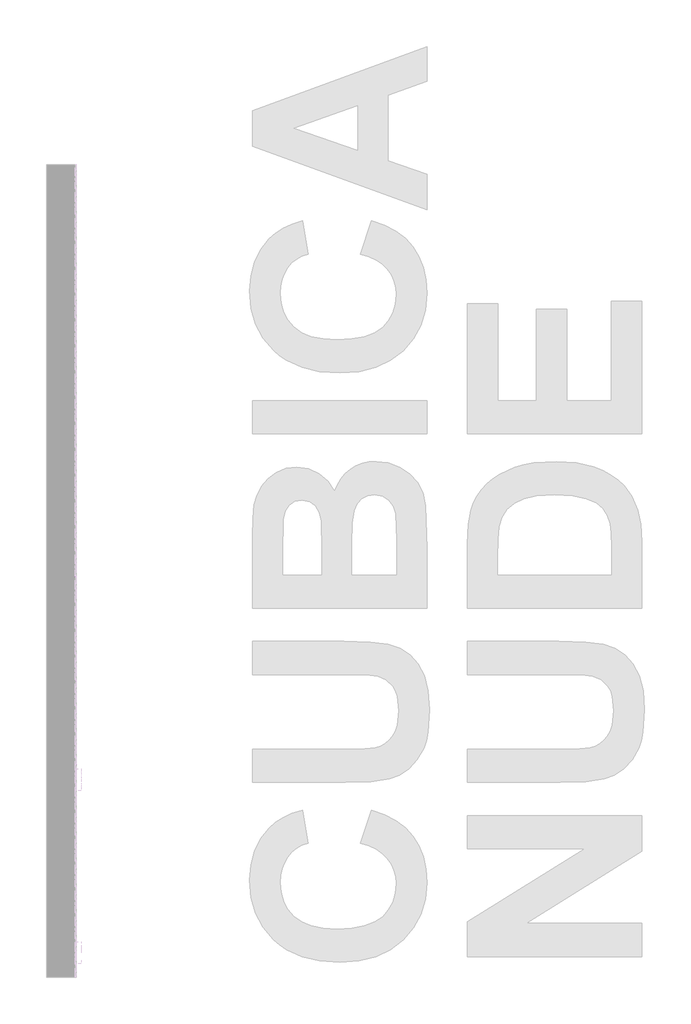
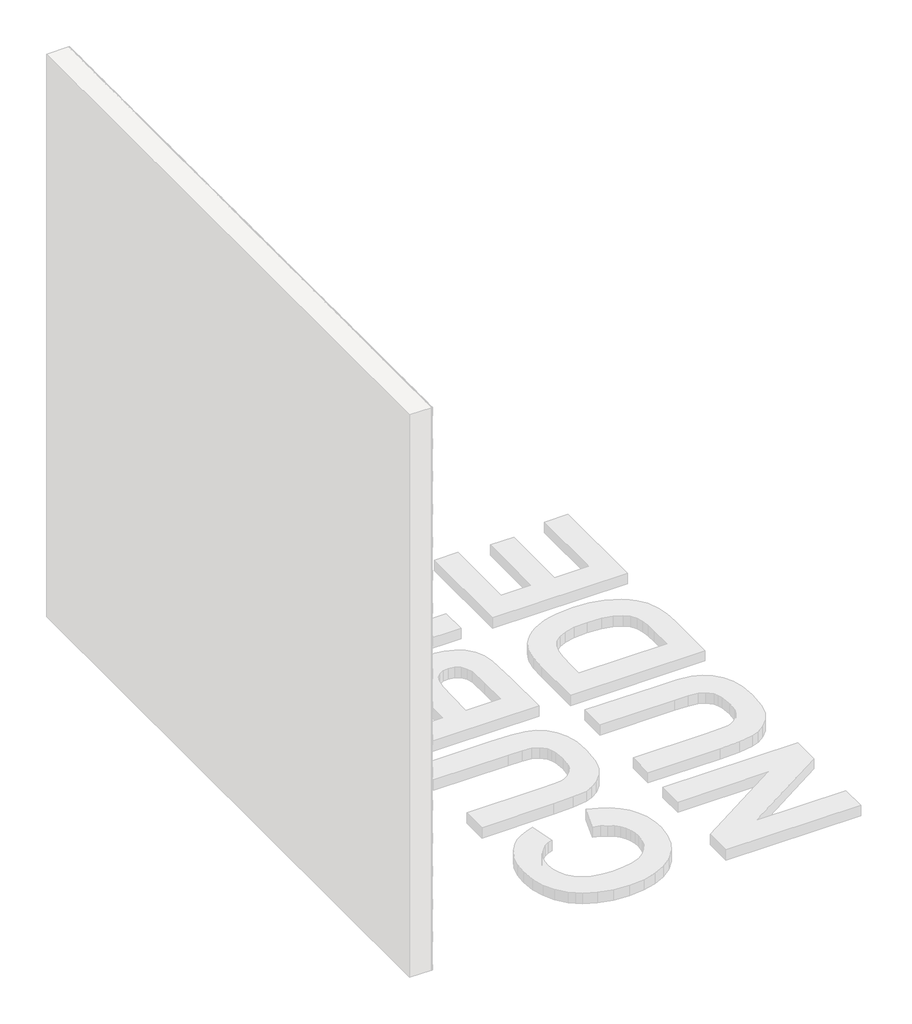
# One storey, part 59 of 121: 145 proxies.
"""IFC4 building model written with IfcOpenShell, lengths in millimetres."""

from ifc_helpers import new_model, si_unit, origin, place, context, project, spatial, transform, mapped, element, save
from components import generic_models_b2b2c5c1, generic_models_9bf73f6f, generic_models_5d175859

model = new_model("IFC4")

# Units and contexts
model_context = context("Model", 3, world=origin())
ifc_project = project(units=[si_unit("LENGTHUNIT", "METRE", prefix="MILLI")], contexts=[model_context])

# Site, building, storey
site = spatial("IfcSite", under=ifc_project)
building = spatial("IfcBuilding", under=site)
storey = spatial("IfcBuildingStorey", under=building, Name="PORTOBELLO - SHOWROOM", Elevation=0.0)

# Proxies
placement = place(None, origin())
generic_models_shape = generic_models_b2b2c5c1(model_context)
element("IfcBuildingElementProxy", 1, Name="PBSHOP - CUBICA NUDE 4,8X8,3 : CUBICA NUDE - POSIÇÃO 01", ObjectType="PBSHOP - CUBICA NUDE 4,8X8,3 : CUBICA NUDE - POSIÇÃO 01", at=placement, inside=storey, context=model_context, shape_type="MappedRepresentation", body=[
    mapped(generic_models_shape, transform((150369.5341846, 7895.3956881, 1697.0495727), x_axis=(0.0, 1.0, 0.0), y_axis=(0.0, 0.0, 1.0), z_axis=(1.0, 0.0, 0.0))),
])
element("IfcBuildingElementProxy", 2, Name="PBSHOP - CUBICA NUDE 4,8X8,3 : CUBICA NUDE - POSIÇÃO 01", ObjectType="PBSHOP - CUBICA NUDE 4,8X8,3 : CUBICA NUDE - POSIÇÃO 01", at=placement, inside=storey, context=model_context, shape_type="MappedRepresentation", body=[
    mapped(generic_models_shape, transform((150369.5341846, 7986.2349573, 1697.0495727), x_axis=(0.0, 1.0, 0.0), y_axis=(0.0, 0.0, 1.0), z_axis=(1.0, 0.0, 0.0))),
])
element("IfcBuildingElementProxy", 3, Name="PBSHOP - CUBICA NUDE 4,8X8,3 : CUBICA NUDE - POSIÇÃO 01", ObjectType="PBSHOP - CUBICA NUDE 4,8X8,3 : CUBICA NUDE - POSIÇÃO 01", at=placement, inside=storey, context=model_context, shape_type="MappedRepresentation", body=[
    mapped(generic_models_shape, transform((150369.5341846, 7032.4226303, 1775.984211), x_axis=(0.0, 1.0, 0.0), y_axis=(0.0, 0.0, 1.0), z_axis=(1.0, 0.0, 0.0))),
])
element("IfcBuildingElementProxy", 4, Name="PBSHOP - CUBICA NUDE 4,8X8,3 : CUBICA NUDE - POSIÇÃO 01", ObjectType="PBSHOP - CUBICA NUDE 4,8X8,3 : CUBICA NUDE - POSIÇÃO 01", at=placement, inside=storey, context=model_context, shape_type="MappedRepresentation", body=[
    mapped(generic_models_shape, transform((150369.5341846, 7123.2618995, 1775.984211), x_axis=(0.0, 1.0, 0.0), y_axis=(0.0, 0.0, 1.0), z_axis=(1.0, 0.0, 0.0))),
])
element("IfcBuildingElementProxy", 5, Name="PBSHOP - CUBICA NUDE 4,8X8,3 : CUBICA NUDE - POSIÇÃO 01", ObjectType="PBSHOP - CUBICA NUDE 4,8X8,3 : CUBICA NUDE - POSIÇÃO 01", at=placement, inside=storey, context=model_context, shape_type="MappedRepresentation", body=[
    mapped(generic_models_shape, transform((150369.5341846, 7214.1011688, 1775.984211), x_axis=(0.0, 1.0, 0.0), y_axis=(0.0, 0.0, 1.0), z_axis=(1.0, 0.0, 0.0))),
])
element("IfcBuildingElementProxy", 6, Name="PBSHOP - CUBICA NUDE 4,8X8,3 : CUBICA NUDE - POSIÇÃO 01", ObjectType="PBSHOP - CUBICA NUDE 4,8X8,3 : CUBICA NUDE - POSIÇÃO 01", at=placement, inside=storey, context=model_context, shape_type="MappedRepresentation", body=[
    mapped(generic_models_shape, transform((150369.5341846, 7304.940438, 1775.984211), x_axis=(0.0, 1.0, 0.0), y_axis=(0.0, 0.0, 1.0), z_axis=(1.0, 0.0, 0.0))),
])
element("IfcBuildingElementProxy", 7, Name="PBSHOP - CUBICA NUDE 4,8X8,3 : CUBICA NUDE - POSIÇÃO 01", ObjectType="PBSHOP - CUBICA NUDE 4,8X8,3 : CUBICA NUDE - POSIÇÃO 01", at=placement, inside=storey, context=model_context, shape_type="MappedRepresentation", body=[
    mapped(generic_models_shape, transform((150369.5341846, 7395.7797073, 1775.984211), x_axis=(0.0, 1.0, 0.0), y_axis=(0.0, 0.0, 1.0), z_axis=(1.0, 0.0, 0.0))),
])
element("IfcBuildingElementProxy", 8, Name="PBSHOP - CUBICA NUDE 4,8X8,3 : CUBICA NUDE - POSIÇÃO 01", ObjectType="PBSHOP - CUBICA NUDE 4,8X8,3 : CUBICA NUDE - POSIÇÃO 01", at=placement, inside=storey, context=model_context, shape_type="MappedRepresentation", body=[
    mapped(generic_models_shape, transform((150369.5341846, 7486.6189765, 1775.984211), x_axis=(0.0, 1.0, 0.0), y_axis=(0.0, 0.0, 1.0), z_axis=(1.0, 0.0, 0.0))),
])
element("IfcBuildingElementProxy", 9, Name="PBSHOP - CUBICA NUDE 4,8X8,3 : CUBICA NUDE - POSIÇÃO 01", ObjectType="PBSHOP - CUBICA NUDE 4,8X8,3 : CUBICA NUDE - POSIÇÃO 01", at=placement, inside=storey, context=model_context, shape_type="MappedRepresentation", body=[
    mapped(generic_models_shape, transform((150369.5341846, 7577.4582457, 1775.984211), x_axis=(0.0, 1.0, 0.0), y_axis=(0.0, 0.0, 1.0), z_axis=(1.0, 0.0, 0.0))),
])
element("IfcBuildingElementProxy", 10, Name="PBSHOP - CUBICA NUDE 4,8X8,3 : CUBICA NUDE - POSIÇÃO 01", ObjectType="PBSHOP - CUBICA NUDE 4,8X8,3 : CUBICA NUDE - POSIÇÃO 01", at=placement, inside=storey, context=model_context, shape_type="MappedRepresentation", body=[
    mapped(generic_models_shape, transform((150369.5341846, 7668.297515, 1775.984211), x_axis=(0.0, 1.0, 0.0), y_axis=(0.0, 0.0, 1.0), z_axis=(1.0, 0.0, 0.0))),
])
element("IfcBuildingElementProxy", 11, Name="PBSHOP - CUBICA NUDE 4,8X8,3 : CUBICA NUDE - POSIÇÃO 01", ObjectType="PBSHOP - CUBICA NUDE 4,8X8,3 : CUBICA NUDE - POSIÇÃO 01", at=placement, inside=storey, context=model_context, shape_type="MappedRepresentation", body=[
    mapped(generic_models_shape, transform((150369.5341846, 7759.1367842, 1775.984211), x_axis=(0.0, 1.0, 0.0), y_axis=(0.0, 0.0, 1.0), z_axis=(1.0, 0.0, 0.0))),
])
element("IfcBuildingElementProxy", 12, Name="PBSHOP - CUBICA NUDE 4,8X8,3 : CUBICA NUDE - POSIÇÃO 01", ObjectType="PBSHOP - CUBICA NUDE 4,8X8,3 : CUBICA NUDE - POSIÇÃO 01", at=placement, inside=storey, context=model_context, shape_type="MappedRepresentation", body=[
    mapped(generic_models_shape, transform((150369.5341846, 7849.9760535, 1775.984211), x_axis=(0.0, 1.0, 0.0), y_axis=(0.0, 0.0, 1.0), z_axis=(1.0, 0.0, 0.0))),
])
element("IfcBuildingElementProxy", 13, Name="PBSHOP - CUBICA NUDE 4,8X8,3 : CUBICA NUDE - POSIÇÃO 01", ObjectType="PBSHOP - CUBICA NUDE 4,8X8,3 : CUBICA NUDE - POSIÇÃO 01", at=placement, inside=storey, context=model_context, shape_type="MappedRepresentation", body=[
    mapped(generic_models_shape, transform((150369.5341846, 7940.8153227, 1775.984211), x_axis=(0.0, 1.0, 0.0), y_axis=(0.0, 0.0, 1.0), z_axis=(1.0, 0.0, 0.0))),
])
element("IfcBuildingElementProxy", 14, Name="PBSHOP - CUBICA NUDE 4,8X8,3 : CUBICA NUDE - POSIÇÃO 01", ObjectType="PBSHOP - CUBICA NUDE 4,8X8,3 : CUBICA NUDE - POSIÇÃO 01", at=placement, inside=storey, context=model_context, shape_type="MappedRepresentation", body=[
    mapped(generic_models_shape, transform((150369.5341846, 7077.8422649, 1854.9188494), x_axis=(0.0, 1.0, 0.0), y_axis=(0.0, 0.0, 1.0), z_axis=(1.0, 0.0, 0.0))),
])
element("IfcBuildingElementProxy", 15, Name="PBSHOP - CUBICA NUDE 4,8X8,3 : CUBICA NUDE - POSIÇÃO 01", ObjectType="PBSHOP - CUBICA NUDE 4,8X8,3 : CUBICA NUDE - POSIÇÃO 01", at=placement, inside=storey, context=model_context, shape_type="MappedRepresentation", body=[
    mapped(generic_models_shape, transform((150369.5341846, 7168.6815341, 1854.9188494), x_axis=(0.0, 1.0, 0.0), y_axis=(0.0, 0.0, 1.0), z_axis=(1.0, 0.0, 0.0))),
])
element("IfcBuildingElementProxy", 16, Name="PBSHOP - CUBICA NUDE 4,8X8,3 : CUBICA NUDE - POSIÇÃO 01", ObjectType="PBSHOP - CUBICA NUDE 4,8X8,3 : CUBICA NUDE - POSIÇÃO 01", at=placement, inside=storey, context=model_context, shape_type="MappedRepresentation", body=[
    mapped(generic_models_shape, transform((150369.5341846, 7259.5208034, 1854.9188494), x_axis=(0.0, 1.0, 0.0), y_axis=(0.0, 0.0, 1.0), z_axis=(1.0, 0.0, 0.0))),
])
element("IfcBuildingElementProxy", 17, Name="PBSHOP - CUBICA NUDE 4,8X8,3 : CUBICA NUDE - POSIÇÃO 01", ObjectType="PBSHOP - CUBICA NUDE 4,8X8,3 : CUBICA NUDE - POSIÇÃO 01", at=placement, inside=storey, context=model_context, shape_type="MappedRepresentation", body=[
    mapped(generic_models_shape, transform((150369.5341846, 7350.3600726, 1854.9188494), x_axis=(0.0, 1.0, 0.0), y_axis=(0.0, 0.0, 1.0), z_axis=(1.0, 0.0, 0.0))),
])
element("IfcBuildingElementProxy", 18, Name="PBSHOP - CUBICA NUDE 4,8X8,3 : CUBICA NUDE - POSIÇÃO 01", ObjectType="PBSHOP - CUBICA NUDE 4,8X8,3 : CUBICA NUDE - POSIÇÃO 01", at=placement, inside=storey, context=model_context, shape_type="MappedRepresentation", body=[
    mapped(generic_models_shape, transform((150369.5341846, 7441.1993419, 1854.9188494), x_axis=(0.0, 1.0, 0.0), y_axis=(0.0, 0.0, 1.0), z_axis=(1.0, 0.0, 0.0))),
])
element("IfcBuildingElementProxy", 19, Name="PBSHOP - CUBICA NUDE 4,8X8,3 : CUBICA NUDE - POSIÇÃO 01", ObjectType="PBSHOP - CUBICA NUDE 4,8X8,3 : CUBICA NUDE - POSIÇÃO 01", at=placement, inside=storey, context=model_context, shape_type="MappedRepresentation", body=[
    mapped(generic_models_shape, transform((150369.5341846, 7532.0386111, 1854.9188494), x_axis=(0.0, 1.0, 0.0), y_axis=(0.0, 0.0, 1.0), z_axis=(1.0, 0.0, 0.0))),
])
element("IfcBuildingElementProxy", 20, Name="PBSHOP - CUBICA NUDE 4,8X8,3 : CUBICA NUDE - POSIÇÃO 01", ObjectType="PBSHOP - CUBICA NUDE 4,8X8,3 : CUBICA NUDE - POSIÇÃO 01", at=placement, inside=storey, context=model_context, shape_type="MappedRepresentation", body=[
    mapped(generic_models_shape, transform((150369.5341846, 7622.8778804, 1854.9188494), x_axis=(0.0, 1.0, 0.0), y_axis=(0.0, 0.0, 1.0), z_axis=(1.0, 0.0, 0.0))),
])
element("IfcBuildingElementProxy", 21, Name="PBSHOP - CUBICA NUDE 4,8X8,3 : CUBICA NUDE - POSIÇÃO 01", ObjectType="PBSHOP - CUBICA NUDE 4,8X8,3 : CUBICA NUDE - POSIÇÃO 01", at=placement, inside=storey, context=model_context, shape_type="MappedRepresentation", body=[
    mapped(generic_models_shape, transform((150369.5341846, 7713.7171496, 1854.9188494), x_axis=(0.0, 1.0, 0.0), y_axis=(0.0, 0.0, 1.0), z_axis=(1.0, 0.0, 0.0))),
])
element("IfcBuildingElementProxy", 22, Name="PBSHOP - CUBICA NUDE 4,8X8,3 : CUBICA NUDE - POSIÇÃO 01", ObjectType="PBSHOP - CUBICA NUDE 4,8X8,3 : CUBICA NUDE - POSIÇÃO 01", at=placement, inside=storey, context=model_context, shape_type="MappedRepresentation", body=[
    mapped(generic_models_shape, transform((150369.5341846, 7804.5564189, 1854.9188494), x_axis=(0.0, 1.0, 0.0), y_axis=(0.0, 0.0, 1.0), z_axis=(1.0, 0.0, 0.0))),
])
element("IfcBuildingElementProxy", 23, Name="PBSHOP - CUBICA NUDE 4,8X8,3 : CUBICA NUDE - POSIÇÃO 01", ObjectType="PBSHOP - CUBICA NUDE 4,8X8,3 : CUBICA NUDE - POSIÇÃO 01", at=placement, inside=storey, context=model_context, shape_type="MappedRepresentation", body=[
    mapped(generic_models_shape, transform((150369.5341846, 7895.3956881, 1854.9188494), x_axis=(0.0, 1.0, 0.0), y_axis=(0.0, 0.0, 1.0), z_axis=(1.0, 0.0, 0.0))),
])
element("IfcBuildingElementProxy", 24, Name="PBSHOP - CUBICA NUDE 4,8X8,3 : CUBICA NUDE - POSIÇÃO 01", ObjectType="PBSHOP - CUBICA NUDE 4,8X8,3 : CUBICA NUDE - POSIÇÃO 01", at=placement, inside=storey, context=model_context, shape_type="MappedRepresentation", body=[
    mapped(generic_models_shape, transform((150369.5341846, 7986.2349573, 1854.9188494), x_axis=(0.0, 1.0, 0.0), y_axis=(0.0, 0.0, 1.0), z_axis=(1.0, 0.0, 0.0))),
])
element("IfcBuildingElementProxy", 25, Name="PBSHOP - CUBICA NUDE 4,8X8,3 : CUBICA NUDE - POSIÇÃO 01", ObjectType="PBSHOP - CUBICA NUDE 4,8X8,3 : CUBICA NUDE - POSIÇÃO 01", at=placement, inside=storey, context=model_context, shape_type="MappedRepresentation", body=[
    mapped(generic_models_shape, transform((150369.5341846, 7032.4226303, 1933.8534878), x_axis=(0.0, 1.0, 0.0), y_axis=(0.0, 0.0, 1.0), z_axis=(1.0, 0.0, 0.0))),
])
element("IfcBuildingElementProxy", 26, Name="PBSHOP - CUBICA NUDE 4,8X8,3 : CUBICA NUDE - POSIÇÃO 01", ObjectType="PBSHOP - CUBICA NUDE 4,8X8,3 : CUBICA NUDE - POSIÇÃO 01", at=placement, inside=storey, context=model_context, shape_type="MappedRepresentation", body=[
    mapped(generic_models_shape, transform((150369.5341846, 7123.2618995, 1933.8534878), x_axis=(0.0, 1.0, 0.0), y_axis=(0.0, 0.0, 1.0), z_axis=(1.0, 0.0, 0.0))),
])
element("IfcBuildingElementProxy", 27, Name="PBSHOP - CUBICA NUDE 4,8X8,3 : CUBICA NUDE - POSIÇÃO 01", ObjectType="PBSHOP - CUBICA NUDE 4,8X8,3 : CUBICA NUDE - POSIÇÃO 01", at=placement, inside=storey, context=model_context, shape_type="MappedRepresentation", body=[
    mapped(generic_models_shape, transform((150369.5341846, 7214.1011688, 1933.8534878), x_axis=(0.0, 1.0, 0.0), y_axis=(0.0, 0.0, 1.0), z_axis=(1.0, 0.0, 0.0))),
])
element("IfcBuildingElementProxy", 28, Name="PBSHOP - CUBICA NUDE 4,8X8,3 : CUBICA NUDE - POSIÇÃO 01", ObjectType="PBSHOP - CUBICA NUDE 4,8X8,3 : CUBICA NUDE - POSIÇÃO 01", at=placement, inside=storey, context=model_context, shape_type="MappedRepresentation", body=[
    mapped(generic_models_shape, transform((150369.5341846, 7304.940438, 1933.8534878), x_axis=(0.0, 1.0, 0.0), y_axis=(0.0, 0.0, 1.0), z_axis=(1.0, 0.0, 0.0))),
])
element("IfcBuildingElementProxy", 29, Name="PBSHOP - CUBICA NUDE 4,8X8,3 : CUBICA NUDE - POSIÇÃO 01", ObjectType="PBSHOP - CUBICA NUDE 4,8X8,3 : CUBICA NUDE - POSIÇÃO 01", at=placement, inside=storey, context=model_context, shape_type="MappedRepresentation", body=[
    mapped(generic_models_shape, transform((150369.5341846, 7395.7797073, 1933.8534878), x_axis=(0.0, 1.0, 0.0), y_axis=(0.0, 0.0, 1.0), z_axis=(1.0, 0.0, 0.0))),
])
element("IfcBuildingElementProxy", 30, Name="PBSHOP - CUBICA NUDE 4,8X8,3 : CUBICA NUDE - POSIÇÃO 01", ObjectType="PBSHOP - CUBICA NUDE 4,8X8,3 : CUBICA NUDE - POSIÇÃO 01", at=placement, inside=storey, context=model_context, shape_type="MappedRepresentation", body=[
    mapped(generic_models_shape, transform((150369.5341846, 7486.6189765, 1933.8534878), x_axis=(0.0, 1.0, 0.0), y_axis=(0.0, 0.0, 1.0), z_axis=(1.0, 0.0, 0.0))),
])
element("IfcBuildingElementProxy", 31, Name="PBSHOP - CUBICA NUDE 4,8X8,3 : CUBICA NUDE - POSIÇÃO 01", ObjectType="PBSHOP - CUBICA NUDE 4,8X8,3 : CUBICA NUDE - POSIÇÃO 01", at=placement, inside=storey, context=model_context, shape_type="MappedRepresentation", body=[
    mapped(generic_models_shape, transform((150369.5341846, 7577.4582457, 1933.8534878), x_axis=(0.0, 1.0, 0.0), y_axis=(0.0, 0.0, 1.0), z_axis=(1.0, 0.0, 0.0))),
])
element("IfcBuildingElementProxy", 32, Name="PBSHOP - CUBICA NUDE 4,8X8,3 : CUBICA NUDE - POSIÇÃO 01", ObjectType="PBSHOP - CUBICA NUDE 4,8X8,3 : CUBICA NUDE - POSIÇÃO 01", at=placement, inside=storey, context=model_context, shape_type="MappedRepresentation", body=[
    mapped(generic_models_shape, transform((150369.5341846, 7668.297515, 1933.8534878), x_axis=(0.0, 1.0, 0.0), y_axis=(0.0, 0.0, 1.0), z_axis=(1.0, 0.0, 0.0))),
])
element("IfcBuildingElementProxy", 33, Name="PBSHOP - CUBICA NUDE 4,8X8,3 : CUBICA NUDE - POSIÇÃO 01", ObjectType="PBSHOP - CUBICA NUDE 4,8X8,3 : CUBICA NUDE - POSIÇÃO 01", at=placement, inside=storey, context=model_context, shape_type="MappedRepresentation", body=[
    mapped(generic_models_shape, transform((150369.5341846, 7759.1367842, 1933.8534878), x_axis=(0.0, 1.0, 0.0), y_axis=(0.0, 0.0, 1.0), z_axis=(1.0, 0.0, 0.0))),
])
element("IfcBuildingElementProxy", 34, Name="PBSHOP - CUBICA NUDE 4,8X8,3 : CUBICA NUDE - POSIÇÃO 01", ObjectType="PBSHOP - CUBICA NUDE 4,8X8,3 : CUBICA NUDE - POSIÇÃO 01", at=placement, inside=storey, context=model_context, shape_type="MappedRepresentation", body=[
    mapped(generic_models_shape, transform((150369.5341846, 7849.9760535, 1933.8534878), x_axis=(0.0, 1.0, 0.0), y_axis=(0.0, 0.0, 1.0), z_axis=(1.0, 0.0, 0.0))),
])
element("IfcBuildingElementProxy", 35, Name="PBSHOP - CUBICA NUDE 4,8X8,3 : CUBICA NUDE - POSIÇÃO 01", ObjectType="PBSHOP - CUBICA NUDE 4,8X8,3 : CUBICA NUDE - POSIÇÃO 01", at=placement, inside=storey, context=model_context, shape_type="MappedRepresentation", body=[
    mapped(generic_models_shape, transform((150369.5341846, 7940.8153227, 1933.8534878), x_axis=(0.0, 1.0, 0.0), y_axis=(0.0, 0.0, 1.0), z_axis=(1.0, 0.0, 0.0))),
])
element("IfcBuildingElementProxy", 36, Name="PBSHOP - CUBICA NUDE 4,8X8,3 : CUBICA NUDE - POSIÇÃO 01", ObjectType="PBSHOP - CUBICA NUDE 4,8X8,3 : CUBICA NUDE - POSIÇÃO 01", at=placement, inside=storey, context=model_context, shape_type="MappedRepresentation", body=[
    mapped(generic_models_shape, transform((150369.5341846, 7077.8422649, 2012.7881262), x_axis=(0.0, 1.0, 0.0), y_axis=(0.0, 0.0, 1.0), z_axis=(1.0, 0.0, 0.0))),
])
element("IfcBuildingElementProxy", 37, Name="PBSHOP - CUBICA NUDE 4,8X8,3 : CUBICA NUDE - POSIÇÃO 01", ObjectType="PBSHOP - CUBICA NUDE 4,8X8,3 : CUBICA NUDE - POSIÇÃO 01", at=placement, inside=storey, context=model_context, shape_type="MappedRepresentation", body=[
    mapped(generic_models_shape, transform((150369.5341846, 7168.6815341, 2012.7881262), x_axis=(0.0, 1.0, 0.0), y_axis=(0.0, 0.0, 1.0), z_axis=(1.0, 0.0, 0.0))),
])
element("IfcBuildingElementProxy", 38, Name="PBSHOP - CUBICA NUDE 4,8X8,3 : CUBICA NUDE - POSIÇÃO 01", ObjectType="PBSHOP - CUBICA NUDE 4,8X8,3 : CUBICA NUDE - POSIÇÃO 01", at=placement, inside=storey, context=model_context, shape_type="MappedRepresentation", body=[
    mapped(generic_models_shape, transform((150369.5341846, 7259.5208034, 2012.7881262), x_axis=(0.0, 1.0, 0.0), y_axis=(0.0, 0.0, 1.0), z_axis=(1.0, 0.0, 0.0))),
])
element("IfcBuildingElementProxy", 39, Name="PBSHOP - CUBICA NUDE 4,8X8,3 : CUBICA NUDE - POSIÇÃO 01", ObjectType="PBSHOP - CUBICA NUDE 4,8X8,3 : CUBICA NUDE - POSIÇÃO 01", at=placement, inside=storey, context=model_context, shape_type="MappedRepresentation", body=[
    mapped(generic_models_shape, transform((150369.5341846, 7350.3600726, 2012.7881262), x_axis=(0.0, 1.0, 0.0), y_axis=(0.0, 0.0, 1.0), z_axis=(1.0, 0.0, 0.0))),
])
element("IfcBuildingElementProxy", 40, Name="PBSHOP - CUBICA NUDE 4,8X8,3 : CUBICA NUDE - POSIÇÃO 01", ObjectType="PBSHOP - CUBICA NUDE 4,8X8,3 : CUBICA NUDE - POSIÇÃO 01", at=placement, inside=storey, context=model_context, shape_type="MappedRepresentation", body=[
    mapped(generic_models_shape, transform((150369.5341846, 7441.1993419, 2012.7881262), x_axis=(0.0, 1.0, 0.0), y_axis=(0.0, 0.0, 1.0), z_axis=(1.0, 0.0, 0.0))),
])
element("IfcBuildingElementProxy", 41, Name="PBSHOP - CUBICA NUDE 4,8X8,3 : CUBICA NUDE - POSIÇÃO 01", ObjectType="PBSHOP - CUBICA NUDE 4,8X8,3 : CUBICA NUDE - POSIÇÃO 01", at=placement, inside=storey, context=model_context, shape_type="MappedRepresentation", body=[
    mapped(generic_models_shape, transform((150369.5341846, 7532.0386111, 2012.7881262), x_axis=(0.0, 1.0, 0.0), y_axis=(0.0, 0.0, 1.0), z_axis=(1.0, 0.0, 0.0))),
])
element("IfcBuildingElementProxy", 42, Name="PBSHOP - CUBICA NUDE 4,8X8,3 : CUBICA NUDE - POSIÇÃO 01", ObjectType="PBSHOP - CUBICA NUDE 4,8X8,3 : CUBICA NUDE - POSIÇÃO 01", at=placement, inside=storey, context=model_context, shape_type="MappedRepresentation", body=[
    mapped(generic_models_shape, transform((150369.5341846, 7622.8778804, 2012.7881262), x_axis=(0.0, 1.0, 0.0), y_axis=(0.0, 0.0, 1.0), z_axis=(1.0, 0.0, 0.0))),
])
element("IfcBuildingElementProxy", 43, Name="PBSHOP - CUBICA NUDE 4,8X8,3 : CUBICA NUDE - POSIÇÃO 01", ObjectType="PBSHOP - CUBICA NUDE 4,8X8,3 : CUBICA NUDE - POSIÇÃO 01", at=placement, inside=storey, context=model_context, shape_type="MappedRepresentation", body=[
    mapped(generic_models_shape, transform((150369.5341846, 7713.7171496, 2012.7881262), x_axis=(0.0, 1.0, 0.0), y_axis=(0.0, 0.0, 1.0), z_axis=(1.0, 0.0, 0.0))),
])
element("IfcBuildingElementProxy", 44, Name="PBSHOP - CUBICA NUDE 4,8X8,3 : CUBICA NUDE - POSIÇÃO 01", ObjectType="PBSHOP - CUBICA NUDE 4,8X8,3 : CUBICA NUDE - POSIÇÃO 01", at=placement, inside=storey, context=model_context, shape_type="MappedRepresentation", body=[
    mapped(generic_models_shape, transform((150369.5341846, 7804.5564189, 2012.7881262), x_axis=(0.0, 1.0, 0.0), y_axis=(0.0, 0.0, 1.0), z_axis=(1.0, 0.0, 0.0))),
])
element("IfcBuildingElementProxy", 45, Name="PBSHOP - CUBICA NUDE 4,8X8,3 : CUBICA NUDE - POSIÇÃO 01", ObjectType="PBSHOP - CUBICA NUDE 4,8X8,3 : CUBICA NUDE - POSIÇÃO 01", at=placement, inside=storey, context=model_context, shape_type="MappedRepresentation", body=[
    mapped(generic_models_shape, transform((150369.5341846, 7895.3956881, 2012.7881262), x_axis=(0.0, 1.0, 0.0), y_axis=(0.0, 0.0, 1.0), z_axis=(1.0, 0.0, 0.0))),
])
element("IfcBuildingElementProxy", 46, Name="PBSHOP - CUBICA NUDE 4,8X8,3 : CUBICA NUDE - POSIÇÃO 01", ObjectType="PBSHOP - CUBICA NUDE 4,8X8,3 : CUBICA NUDE - POSIÇÃO 01", at=placement, inside=storey, context=model_context, shape_type="MappedRepresentation", body=[
    mapped(generic_models_shape, transform((150369.5341846, 7986.2349573, 2012.7881262), x_axis=(0.0, 1.0, 0.0), y_axis=(0.0, 0.0, 1.0), z_axis=(1.0, 0.0, 0.0))),
])
generic_models_2_shape = generic_models_9bf73f6f(model_context)
element("IfcBuildingElementProxy", 47, Name="PBSHOP - CUBICA NUDE 4,8X8,3 : CUBICA NUDE - POSIÇÃO 03", ObjectType="PBSHOP - CUBICA NUDE 4,8X8,3 : CUBICA NUDE - POSIÇÃO 03", at=placement, inside=storey, context=model_context, shape_type="MappedRepresentation", body=[
    mapped(generic_models_2_shape, transform((150369.5341846, 7055.1346068, 1657.5410431), x_axis=(0.0, 1.0, 0.0), y_axis=(0.0, 0.0, 1.0), z_axis=(1.0, 0.0, 0.0))),
])
element("IfcBuildingElementProxy", 48, Name="PBSHOP - CUBICA NUDE 4,8X8,3 : CUBICA NUDE - POSIÇÃO 03", ObjectType="PBSHOP - CUBICA NUDE 4,8X8,3 : CUBICA NUDE - POSIÇÃO 03", at=placement, inside=storey, context=model_context, shape_type="MappedRepresentation", body=[
    mapped(generic_models_2_shape, transform((150369.5341846, 7145.973876, 1657.5410431), x_axis=(0.0, 1.0, 0.0), y_axis=(0.0, 0.0, 1.0), z_axis=(1.0, 0.0, 0.0))),
])
element("IfcBuildingElementProxy", 49, Name="PBSHOP - CUBICA NUDE 4,8X8,3 : CUBICA NUDE - POSIÇÃO 03", ObjectType="PBSHOP - CUBICA NUDE 4,8X8,3 : CUBICA NUDE - POSIÇÃO 03", at=placement, inside=storey, context=model_context, shape_type="MappedRepresentation", body=[
    mapped(generic_models_2_shape, transform((150369.5341846, 7236.8131452, 1657.5410431), x_axis=(0.0, 1.0, 0.0), y_axis=(0.0, 0.0, 1.0), z_axis=(1.0, 0.0, 0.0))),
])
element("IfcBuildingElementProxy", 50, Name="PBSHOP - CUBICA NUDE 4,8X8,3 : CUBICA NUDE - POSIÇÃO 03", ObjectType="PBSHOP - CUBICA NUDE 4,8X8,3 : CUBICA NUDE - POSIÇÃO 03", at=placement, inside=storey, context=model_context, shape_type="MappedRepresentation", body=[
    mapped(generic_models_2_shape, transform((150369.5341846, 7327.6524145, 1657.5410431), x_axis=(0.0, 1.0, 0.0), y_axis=(0.0, 0.0, 1.0), z_axis=(1.0, 0.0, 0.0))),
])
element("IfcBuildingElementProxy", 51, Name="PBSHOP - CUBICA NUDE 4,8X8,3 : CUBICA NUDE - POSIÇÃO 03", ObjectType="PBSHOP - CUBICA NUDE 4,8X8,3 : CUBICA NUDE - POSIÇÃO 03", at=placement, inside=storey, context=model_context, shape_type="MappedRepresentation", body=[
    mapped(generic_models_2_shape, transform((150369.5341846, 7418.4916837, 1657.5410431), x_axis=(0.0, 1.0, 0.0), y_axis=(0.0, 0.0, 1.0), z_axis=(1.0, 0.0, 0.0))),
])
element("IfcBuildingElementProxy", 52, Name="PBSHOP - CUBICA NUDE 4,8X8,3 : CUBICA NUDE - POSIÇÃO 03", ObjectType="PBSHOP - CUBICA NUDE 4,8X8,3 : CUBICA NUDE - POSIÇÃO 03", at=placement, inside=storey, context=model_context, shape_type="MappedRepresentation", body=[
    mapped(generic_models_2_shape, transform((150369.5341846, 7509.330953, 1657.5410431), x_axis=(0.0, 1.0, 0.0), y_axis=(0.0, 0.0, 1.0), z_axis=(1.0, 0.0, 0.0))),
])
element("IfcBuildingElementProxy", 53, Name="PBSHOP - CUBICA NUDE 4,8X8,3 : CUBICA NUDE - POSIÇÃO 03", ObjectType="PBSHOP - CUBICA NUDE 4,8X8,3 : CUBICA NUDE - POSIÇÃO 03", at=placement, inside=storey, context=model_context, shape_type="MappedRepresentation", body=[
    mapped(generic_models_2_shape, transform((150369.5341846, 7600.1702222, 1657.5410431), x_axis=(0.0, 1.0, 0.0), y_axis=(0.0, 0.0, 1.0), z_axis=(1.0, 0.0, 0.0))),
])
element("IfcBuildingElementProxy", 54, Name="PBSHOP - CUBICA NUDE 4,8X8,3 : CUBICA NUDE - POSIÇÃO 03", ObjectType="PBSHOP - CUBICA NUDE 4,8X8,3 : CUBICA NUDE - POSIÇÃO 03", at=placement, inside=storey, context=model_context, shape_type="MappedRepresentation", body=[
    mapped(generic_models_2_shape, transform((150369.5341846, 7691.0094915, 1657.5410431), x_axis=(0.0, 1.0, 0.0), y_axis=(0.0, 0.0, 1.0), z_axis=(1.0, 0.0, 0.0))),
])
element("IfcBuildingElementProxy", 55, Name="PBSHOP - CUBICA NUDE 4,8X8,3 : CUBICA NUDE - POSIÇÃO 03", ObjectType="PBSHOP - CUBICA NUDE 4,8X8,3 : CUBICA NUDE - POSIÇÃO 03", at=placement, inside=storey, context=model_context, shape_type="MappedRepresentation", body=[
    mapped(generic_models_2_shape, transform((150369.5341846, 7781.8487607, 1657.5410431), x_axis=(0.0, 1.0, 0.0), y_axis=(0.0, 0.0, 1.0), z_axis=(1.0, 0.0, 0.0))),
])
element("IfcBuildingElementProxy", 56, Name="PBSHOP - CUBICA NUDE 4,8X8,3 : CUBICA NUDE - POSIÇÃO 03", ObjectType="PBSHOP - CUBICA NUDE 4,8X8,3 : CUBICA NUDE - POSIÇÃO 03", at=placement, inside=storey, context=model_context, shape_type="MappedRepresentation", body=[
    mapped(generic_models_2_shape, transform((150369.5341846, 7872.6880299, 1657.5410431), x_axis=(0.0, 1.0, 0.0), y_axis=(0.0, 0.0, 1.0), z_axis=(1.0, 0.0, 0.0))),
])
element("IfcBuildingElementProxy", 57, Name="PBSHOP - CUBICA NUDE 4,8X8,3 : CUBICA NUDE - POSIÇÃO 03", ObjectType="PBSHOP - CUBICA NUDE 4,8X8,3 : CUBICA NUDE - POSIÇÃO 03", at=placement, inside=storey, context=model_context, shape_type="MappedRepresentation", body=[
    mapped(generic_models_2_shape, transform((150369.5341846, 7963.5272992, 1657.5410431), x_axis=(0.0, 1.0, 0.0), y_axis=(0.0, 0.0, 1.0), z_axis=(1.0, 0.0, 0.0))),
])
element("IfcBuildingElementProxy", 58, Name="PBSHOP - CUBICA NUDE 4,8X8,3 : CUBICA NUDE - POSIÇÃO 03", ObjectType="PBSHOP - CUBICA NUDE 4,8X8,3 : CUBICA NUDE - POSIÇÃO 03", at=placement, inside=storey, context=model_context, shape_type="MappedRepresentation", body=[
    mapped(generic_models_2_shape, transform((150369.5341846, 7009.7149721, 1736.4756814), x_axis=(0.0, 1.0, 0.0), y_axis=(0.0, 0.0, 1.0), z_axis=(1.0, 0.0, 0.0))),
])
element("IfcBuildingElementProxy", 59, Name="PBSHOP - CUBICA NUDE 4,8X8,3 : CUBICA NUDE - POSIÇÃO 03", ObjectType="PBSHOP - CUBICA NUDE 4,8X8,3 : CUBICA NUDE - POSIÇÃO 03", at=placement, inside=storey, context=model_context, shape_type="MappedRepresentation", body=[
    mapped(generic_models_2_shape, transform((150369.5341846, 7100.5542414, 1736.4756814), x_axis=(0.0, 1.0, 0.0), y_axis=(0.0, 0.0, 1.0), z_axis=(1.0, 0.0, 0.0))),
])
element("IfcBuildingElementProxy", 60, Name="PBSHOP - CUBICA NUDE 4,8X8,3 : CUBICA NUDE - POSIÇÃO 03", ObjectType="PBSHOP - CUBICA NUDE 4,8X8,3 : CUBICA NUDE - POSIÇÃO 03", at=placement, inside=storey, context=model_context, shape_type="MappedRepresentation", body=[
    mapped(generic_models_2_shape, transform((150369.5341846, 7191.3935106, 1736.4756814), x_axis=(0.0, 1.0, 0.0), y_axis=(0.0, 0.0, 1.0), z_axis=(1.0, 0.0, 0.0))),
])
element("IfcBuildingElementProxy", 61, Name="PBSHOP - CUBICA NUDE 4,8X8,3 : CUBICA NUDE - POSIÇÃO 03", ObjectType="PBSHOP - CUBICA NUDE 4,8X8,3 : CUBICA NUDE - POSIÇÃO 03", at=placement, inside=storey, context=model_context, shape_type="MappedRepresentation", body=[
    mapped(generic_models_2_shape, transform((150369.5341846, 7282.2327799, 1736.4756814), x_axis=(0.0, 1.0, 0.0), y_axis=(0.0, 0.0, 1.0), z_axis=(1.0, 0.0, 0.0))),
])
element("IfcBuildingElementProxy", 62, Name="PBSHOP - CUBICA NUDE 4,8X8,3 : CUBICA NUDE - POSIÇÃO 03", ObjectType="PBSHOP - CUBICA NUDE 4,8X8,3 : CUBICA NUDE - POSIÇÃO 03", at=placement, inside=storey, context=model_context, shape_type="MappedRepresentation", body=[
    mapped(generic_models_2_shape, transform((150369.5341846, 7373.0720491, 1736.4756814), x_axis=(0.0, 1.0, 0.0), y_axis=(0.0, 0.0, 1.0), z_axis=(1.0, 0.0, 0.0))),
])
element("IfcBuildingElementProxy", 63, Name="PBSHOP - CUBICA NUDE 4,8X8,3 : CUBICA NUDE - POSIÇÃO 03", ObjectType="PBSHOP - CUBICA NUDE 4,8X8,3 : CUBICA NUDE - POSIÇÃO 03", at=placement, inside=storey, context=model_context, shape_type="MappedRepresentation", body=[
    mapped(generic_models_2_shape, transform((150369.5341846, 7463.9113184, 1736.4756814), x_axis=(0.0, 1.0, 0.0), y_axis=(0.0, 0.0, 1.0), z_axis=(1.0, 0.0, 0.0))),
])
element("IfcBuildingElementProxy", 64, Name="PBSHOP - CUBICA NUDE 4,8X8,3 : CUBICA NUDE - POSIÇÃO 03", ObjectType="PBSHOP - CUBICA NUDE 4,8X8,3 : CUBICA NUDE - POSIÇÃO 03", at=placement, inside=storey, context=model_context, shape_type="MappedRepresentation", body=[
    mapped(generic_models_2_shape, transform((150369.5341846, 7554.7505876, 1736.4756814), x_axis=(0.0, 1.0, 0.0), y_axis=(0.0, 0.0, 1.0), z_axis=(1.0, 0.0, 0.0))),
])
element("IfcBuildingElementProxy", 65, Name="PBSHOP - CUBICA NUDE 4,8X8,3 : CUBICA NUDE - POSIÇÃO 03", ObjectType="PBSHOP - CUBICA NUDE 4,8X8,3 : CUBICA NUDE - POSIÇÃO 03", at=placement, inside=storey, context=model_context, shape_type="MappedRepresentation", body=[
    mapped(generic_models_2_shape, transform((150369.5341846, 7645.5898568, 1736.4756814), x_axis=(0.0, 1.0, 0.0), y_axis=(0.0, 0.0, 1.0), z_axis=(1.0, 0.0, 0.0))),
])
element("IfcBuildingElementProxy", 66, Name="PBSHOP - CUBICA NUDE 4,8X8,3 : CUBICA NUDE - POSIÇÃO 03", ObjectType="PBSHOP - CUBICA NUDE 4,8X8,3 : CUBICA NUDE - POSIÇÃO 03", at=placement, inside=storey, context=model_context, shape_type="MappedRepresentation", body=[
    mapped(generic_models_2_shape, transform((150369.5341846, 7736.4291261, 1736.4756814), x_axis=(0.0, 1.0, 0.0), y_axis=(0.0, 0.0, 1.0), z_axis=(1.0, 0.0, 0.0))),
])
element("IfcBuildingElementProxy", 67, Name="PBSHOP - CUBICA NUDE 4,8X8,3 : CUBICA NUDE - POSIÇÃO 03", ObjectType="PBSHOP - CUBICA NUDE 4,8X8,3 : CUBICA NUDE - POSIÇÃO 03", at=placement, inside=storey, context=model_context, shape_type="MappedRepresentation", body=[
    mapped(generic_models_2_shape, transform((150369.5341846, 7827.2683953, 1736.4756814), x_axis=(0.0, 1.0, 0.0), y_axis=(0.0, 0.0, 1.0), z_axis=(1.0, 0.0, 0.0))),
])
element("IfcBuildingElementProxy", 68, Name="PBSHOP - CUBICA NUDE 4,8X8,3 : CUBICA NUDE - POSIÇÃO 03", ObjectType="PBSHOP - CUBICA NUDE 4,8X8,3 : CUBICA NUDE - POSIÇÃO 03", at=placement, inside=storey, context=model_context, shape_type="MappedRepresentation", body=[
    mapped(generic_models_2_shape, transform((150369.5341846, 7918.1076646, 1736.4756814), x_axis=(0.0, 1.0, 0.0), y_axis=(0.0, 0.0, 1.0), z_axis=(1.0, 0.0, 0.0))),
])
element("IfcBuildingElementProxy", 69, Name="PBSHOP - CUBICA NUDE 4,8X8,3 : CUBICA NUDE - POSIÇÃO 03", ObjectType="PBSHOP - CUBICA NUDE 4,8X8,3 : CUBICA NUDE - POSIÇÃO 03", at=placement, inside=storey, context=model_context, shape_type="MappedRepresentation", body=[
    mapped(generic_models_2_shape, transform((150369.5341846, 7055.1346068, 1815.4103198), x_axis=(0.0, 1.0, 0.0), y_axis=(0.0, 0.0, 1.0), z_axis=(1.0, 0.0, 0.0))),
])
element("IfcBuildingElementProxy", 70, Name="PBSHOP - CUBICA NUDE 4,8X8,3 : CUBICA NUDE - POSIÇÃO 03", ObjectType="PBSHOP - CUBICA NUDE 4,8X8,3 : CUBICA NUDE - POSIÇÃO 03", at=placement, inside=storey, context=model_context, shape_type="MappedRepresentation", body=[
    mapped(generic_models_2_shape, transform((150369.5341846, 7145.973876, 1815.4103198), x_axis=(0.0, 1.0, 0.0), y_axis=(0.0, 0.0, 1.0), z_axis=(1.0, 0.0, 0.0))),
])
element("IfcBuildingElementProxy", 71, Name="PBSHOP - CUBICA NUDE 4,8X8,3 : CUBICA NUDE - POSIÇÃO 03", ObjectType="PBSHOP - CUBICA NUDE 4,8X8,3 : CUBICA NUDE - POSIÇÃO 03", at=placement, inside=storey, context=model_context, shape_type="MappedRepresentation", body=[
    mapped(generic_models_2_shape, transform((150369.5341846, 7236.8131452, 1815.4103198), x_axis=(0.0, 1.0, 0.0), y_axis=(0.0, 0.0, 1.0), z_axis=(1.0, 0.0, 0.0))),
])
element("IfcBuildingElementProxy", 72, Name="PBSHOP - CUBICA NUDE 4,8X8,3 : CUBICA NUDE - POSIÇÃO 03", ObjectType="PBSHOP - CUBICA NUDE 4,8X8,3 : CUBICA NUDE - POSIÇÃO 03", at=placement, inside=storey, context=model_context, shape_type="MappedRepresentation", body=[
    mapped(generic_models_2_shape, transform((150369.5341846, 7327.6524145, 1815.4103198), x_axis=(0.0, 1.0, 0.0), y_axis=(0.0, 0.0, 1.0), z_axis=(1.0, 0.0, 0.0))),
])
element("IfcBuildingElementProxy", 73, Name="PBSHOP - CUBICA NUDE 4,8X8,3 : CUBICA NUDE - POSIÇÃO 03", ObjectType="PBSHOP - CUBICA NUDE 4,8X8,3 : CUBICA NUDE - POSIÇÃO 03", at=placement, inside=storey, context=model_context, shape_type="MappedRepresentation", body=[
    mapped(generic_models_2_shape, transform((150369.5341846, 7418.4916837, 1815.4103198), x_axis=(0.0, 1.0, 0.0), y_axis=(0.0, 0.0, 1.0), z_axis=(1.0, 0.0, 0.0))),
])
element("IfcBuildingElementProxy", 74, Name="PBSHOP - CUBICA NUDE 4,8X8,3 : CUBICA NUDE - POSIÇÃO 03", ObjectType="PBSHOP - CUBICA NUDE 4,8X8,3 : CUBICA NUDE - POSIÇÃO 03", at=placement, inside=storey, context=model_context, shape_type="MappedRepresentation", body=[
    mapped(generic_models_2_shape, transform((150369.5341846, 7509.330953, 1815.4103198), x_axis=(0.0, 1.0, 0.0), y_axis=(0.0, 0.0, 1.0), z_axis=(1.0, 0.0, 0.0))),
])
element("IfcBuildingElementProxy", 75, Name="PBSHOP - CUBICA NUDE 4,8X8,3 : CUBICA NUDE - POSIÇÃO 03", ObjectType="PBSHOP - CUBICA NUDE 4,8X8,3 : CUBICA NUDE - POSIÇÃO 03", at=placement, inside=storey, context=model_context, shape_type="MappedRepresentation", body=[
    mapped(generic_models_2_shape, transform((150369.5341846, 7600.1702222, 1815.4103198), x_axis=(0.0, 1.0, 0.0), y_axis=(0.0, 0.0, 1.0), z_axis=(1.0, 0.0, 0.0))),
])
element("IfcBuildingElementProxy", 76, Name="PBSHOP - CUBICA NUDE 4,8X8,3 : CUBICA NUDE - POSIÇÃO 03", ObjectType="PBSHOP - CUBICA NUDE 4,8X8,3 : CUBICA NUDE - POSIÇÃO 03", at=placement, inside=storey, context=model_context, shape_type="MappedRepresentation", body=[
    mapped(generic_models_2_shape, transform((150369.5341846, 7691.0094915, 1815.4103198), x_axis=(0.0, 1.0, 0.0), y_axis=(0.0, 0.0, 1.0), z_axis=(1.0, 0.0, 0.0))),
])
element("IfcBuildingElementProxy", 77, Name="PBSHOP - CUBICA NUDE 4,8X8,3 : CUBICA NUDE - POSIÇÃO 03", ObjectType="PBSHOP - CUBICA NUDE 4,8X8,3 : CUBICA NUDE - POSIÇÃO 03", at=placement, inside=storey, context=model_context, shape_type="MappedRepresentation", body=[
    mapped(generic_models_2_shape, transform((150369.5341846, 7781.8487607, 1815.4103198), x_axis=(0.0, 1.0, 0.0), y_axis=(0.0, 0.0, 1.0), z_axis=(1.0, 0.0, 0.0))),
])
element("IfcBuildingElementProxy", 78, Name="PBSHOP - CUBICA NUDE 4,8X8,3 : CUBICA NUDE - POSIÇÃO 03", ObjectType="PBSHOP - CUBICA NUDE 4,8X8,3 : CUBICA NUDE - POSIÇÃO 03", at=placement, inside=storey, context=model_context, shape_type="MappedRepresentation", body=[
    mapped(generic_models_2_shape, transform((150369.5341846, 7872.6880299, 1815.4103198), x_axis=(0.0, 1.0, 0.0), y_axis=(0.0, 0.0, 1.0), z_axis=(1.0, 0.0, 0.0))),
])
element("IfcBuildingElementProxy", 79, Name="PBSHOP - CUBICA NUDE 4,8X8,3 : CUBICA NUDE - POSIÇÃO 03", ObjectType="PBSHOP - CUBICA NUDE 4,8X8,3 : CUBICA NUDE - POSIÇÃO 03", at=placement, inside=storey, context=model_context, shape_type="MappedRepresentation", body=[
    mapped(generic_models_2_shape, transform((150369.5341846, 7963.5272992, 1815.4103198), x_axis=(0.0, 1.0, 0.0), y_axis=(0.0, 0.0, 1.0), z_axis=(1.0, 0.0, 0.0))),
])
element("IfcBuildingElementProxy", 80, Name="PBSHOP - CUBICA NUDE 4,8X8,3 : CUBICA NUDE - POSIÇÃO 03", ObjectType="PBSHOP - CUBICA NUDE 4,8X8,3 : CUBICA NUDE - POSIÇÃO 03", at=placement, inside=storey, context=model_context, shape_type="MappedRepresentation", body=[
    mapped(generic_models_2_shape, transform((150369.5341846, 7009.7149721, 1894.3449582), x_axis=(0.0, 1.0, 0.0), y_axis=(0.0, 0.0, 1.0), z_axis=(1.0, 0.0, 0.0))),
])
element("IfcBuildingElementProxy", 81, Name="PBSHOP - CUBICA NUDE 4,8X8,3 : CUBICA NUDE - POSIÇÃO 03", ObjectType="PBSHOP - CUBICA NUDE 4,8X8,3 : CUBICA NUDE - POSIÇÃO 03", at=placement, inside=storey, context=model_context, shape_type="MappedRepresentation", body=[
    mapped(generic_models_2_shape, transform((150369.5341846, 7100.5542414, 1894.3449582), x_axis=(0.0, 1.0, 0.0), y_axis=(0.0, 0.0, 1.0), z_axis=(1.0, 0.0, 0.0))),
])
element("IfcBuildingElementProxy", 82, Name="PBSHOP - CUBICA NUDE 4,8X8,3 : CUBICA NUDE - POSIÇÃO 03", ObjectType="PBSHOP - CUBICA NUDE 4,8X8,3 : CUBICA NUDE - POSIÇÃO 03", at=placement, inside=storey, context=model_context, shape_type="MappedRepresentation", body=[
    mapped(generic_models_2_shape, transform((150369.5341846, 7191.3935106, 1894.3449582), x_axis=(0.0, 1.0, 0.0), y_axis=(0.0, 0.0, 1.0), z_axis=(1.0, 0.0, 0.0))),
])
element("IfcBuildingElementProxy", 83, Name="PBSHOP - CUBICA NUDE 4,8X8,3 : CUBICA NUDE - POSIÇÃO 03", ObjectType="PBSHOP - CUBICA NUDE 4,8X8,3 : CUBICA NUDE - POSIÇÃO 03", at=placement, inside=storey, context=model_context, shape_type="MappedRepresentation", body=[
    mapped(generic_models_2_shape, transform((150369.5341846, 7282.2327799, 1894.3449582), x_axis=(0.0, 1.0, 0.0), y_axis=(0.0, 0.0, 1.0), z_axis=(1.0, 0.0, 0.0))),
])
element("IfcBuildingElementProxy", 84, Name="PBSHOP - CUBICA NUDE 4,8X8,3 : CUBICA NUDE - POSIÇÃO 03", ObjectType="PBSHOP - CUBICA NUDE 4,8X8,3 : CUBICA NUDE - POSIÇÃO 03", at=placement, inside=storey, context=model_context, shape_type="MappedRepresentation", body=[
    mapped(generic_models_2_shape, transform((150369.5341846, 7373.0720491, 1894.3449582), x_axis=(0.0, 1.0, 0.0), y_axis=(0.0, 0.0, 1.0), z_axis=(1.0, 0.0, 0.0))),
])
element("IfcBuildingElementProxy", 85, Name="PBSHOP - CUBICA NUDE 4,8X8,3 : CUBICA NUDE - POSIÇÃO 03", ObjectType="PBSHOP - CUBICA NUDE 4,8X8,3 : CUBICA NUDE - POSIÇÃO 03", at=placement, inside=storey, context=model_context, shape_type="MappedRepresentation", body=[
    mapped(generic_models_2_shape, transform((150369.5341846, 7463.9113184, 1894.3449582), x_axis=(0.0, 1.0, 0.0), y_axis=(0.0, 0.0, 1.0), z_axis=(1.0, 0.0, 0.0))),
])
element("IfcBuildingElementProxy", 86, Name="PBSHOP - CUBICA NUDE 4,8X8,3 : CUBICA NUDE - POSIÇÃO 03", ObjectType="PBSHOP - CUBICA NUDE 4,8X8,3 : CUBICA NUDE - POSIÇÃO 03", at=placement, inside=storey, context=model_context, shape_type="MappedRepresentation", body=[
    mapped(generic_models_2_shape, transform((150369.5341846, 7554.7505876, 1894.3449582), x_axis=(0.0, 1.0, 0.0), y_axis=(0.0, 0.0, 1.0), z_axis=(1.0, 0.0, 0.0))),
])
element("IfcBuildingElementProxy", 87, Name="PBSHOP - CUBICA NUDE 4,8X8,3 : CUBICA NUDE - POSIÇÃO 03", ObjectType="PBSHOP - CUBICA NUDE 4,8X8,3 : CUBICA NUDE - POSIÇÃO 03", at=placement, inside=storey, context=model_context, shape_type="MappedRepresentation", body=[
    mapped(generic_models_2_shape, transform((150369.5341846, 7645.5898568, 1894.3449582), x_axis=(0.0, 1.0, 0.0), y_axis=(0.0, 0.0, 1.0), z_axis=(1.0, 0.0, 0.0))),
])
element("IfcBuildingElementProxy", 88, Name="PBSHOP - CUBICA NUDE 4,8X8,3 : CUBICA NUDE - POSIÇÃO 03", ObjectType="PBSHOP - CUBICA NUDE 4,8X8,3 : CUBICA NUDE - POSIÇÃO 03", at=placement, inside=storey, context=model_context, shape_type="MappedRepresentation", body=[
    mapped(generic_models_2_shape, transform((150369.5341846, 7736.4291261, 1894.3449582), x_axis=(0.0, 1.0, 0.0), y_axis=(0.0, 0.0, 1.0), z_axis=(1.0, 0.0, 0.0))),
])
element("IfcBuildingElementProxy", 89, Name="PBSHOP - CUBICA NUDE 4,8X8,3 : CUBICA NUDE - POSIÇÃO 03", ObjectType="PBSHOP - CUBICA NUDE 4,8X8,3 : CUBICA NUDE - POSIÇÃO 03", at=placement, inside=storey, context=model_context, shape_type="MappedRepresentation", body=[
    mapped(generic_models_2_shape, transform((150369.5341846, 7827.2683953, 1894.3449582), x_axis=(0.0, 1.0, 0.0), y_axis=(0.0, 0.0, 1.0), z_axis=(1.0, 0.0, 0.0))),
])
element("IfcBuildingElementProxy", 90, Name="PBSHOP - CUBICA NUDE 4,8X8,3 : CUBICA NUDE - POSIÇÃO 03", ObjectType="PBSHOP - CUBICA NUDE 4,8X8,3 : CUBICA NUDE - POSIÇÃO 03", at=placement, inside=storey, context=model_context, shape_type="MappedRepresentation", body=[
    mapped(generic_models_2_shape, transform((150369.5341846, 7918.1076646, 1894.3449582), x_axis=(0.0, 1.0, 0.0), y_axis=(0.0, 0.0, 1.0), z_axis=(1.0, 0.0, 0.0))),
])
element("IfcBuildingElementProxy", 91, Name="PBSHOP - CUBICA NUDE 4,8X8,3 : CUBICA NUDE - POSIÇÃO 03", ObjectType="PBSHOP - CUBICA NUDE 4,8X8,3 : CUBICA NUDE - POSIÇÃO 03", at=placement, inside=storey, context=model_context, shape_type="MappedRepresentation", body=[
    mapped(generic_models_2_shape, transform((150369.5341846, 7055.1346068, 1973.2795966), x_axis=(0.0, 1.0, 0.0), y_axis=(0.0, 0.0, 1.0), z_axis=(1.0, 0.0, 0.0))),
])
element("IfcBuildingElementProxy", 92, Name="PBSHOP - CUBICA NUDE 4,8X8,3 : CUBICA NUDE - POSIÇÃO 03", ObjectType="PBSHOP - CUBICA NUDE 4,8X8,3 : CUBICA NUDE - POSIÇÃO 03", at=placement, inside=storey, context=model_context, shape_type="MappedRepresentation", body=[
    mapped(generic_models_2_shape, transform((150369.5341846, 7145.973876, 1973.2795966), x_axis=(0.0, 1.0, 0.0), y_axis=(0.0, 0.0, 1.0), z_axis=(1.0, 0.0, 0.0))),
])
element("IfcBuildingElementProxy", 93, Name="PBSHOP - CUBICA NUDE 4,8X8,3 : CUBICA NUDE - POSIÇÃO 03", ObjectType="PBSHOP - CUBICA NUDE 4,8X8,3 : CUBICA NUDE - POSIÇÃO 03", at=placement, inside=storey, context=model_context, shape_type="MappedRepresentation", body=[
    mapped(generic_models_2_shape, transform((150369.5341846, 7236.8131452, 1973.2795966), x_axis=(0.0, 1.0, 0.0), y_axis=(0.0, 0.0, 1.0), z_axis=(1.0, 0.0, 0.0))),
])
element("IfcBuildingElementProxy", 94, Name="PBSHOP - CUBICA NUDE 4,8X8,3 : CUBICA NUDE - POSIÇÃO 03", ObjectType="PBSHOP - CUBICA NUDE 4,8X8,3 : CUBICA NUDE - POSIÇÃO 03", at=placement, inside=storey, context=model_context, shape_type="MappedRepresentation", body=[
    mapped(generic_models_2_shape, transform((150369.5341846, 7327.6524145, 1973.2795966), x_axis=(0.0, 1.0, 0.0), y_axis=(0.0, 0.0, 1.0), z_axis=(1.0, 0.0, 0.0))),
])
element("IfcBuildingElementProxy", 95, Name="PBSHOP - CUBICA NUDE 4,8X8,3 : CUBICA NUDE - POSIÇÃO 03", ObjectType="PBSHOP - CUBICA NUDE 4,8X8,3 : CUBICA NUDE - POSIÇÃO 03", at=placement, inside=storey, context=model_context, shape_type="MappedRepresentation", body=[
    mapped(generic_models_2_shape, transform((150369.5341846, 7418.4916837, 1973.2795966), x_axis=(0.0, 1.0, 0.0), y_axis=(0.0, 0.0, 1.0), z_axis=(1.0, 0.0, 0.0))),
])
element("IfcBuildingElementProxy", 96, Name="PBSHOP - CUBICA NUDE 4,8X8,3 : CUBICA NUDE - POSIÇÃO 03", ObjectType="PBSHOP - CUBICA NUDE 4,8X8,3 : CUBICA NUDE - POSIÇÃO 03", at=placement, inside=storey, context=model_context, shape_type="MappedRepresentation", body=[
    mapped(generic_models_2_shape, transform((150369.5341846, 7509.330953, 1973.2795966), x_axis=(0.0, 1.0, 0.0), y_axis=(0.0, 0.0, 1.0), z_axis=(1.0, 0.0, 0.0))),
])
element("IfcBuildingElementProxy", 97, Name="PBSHOP - CUBICA NUDE 4,8X8,3 : CUBICA NUDE - POSIÇÃO 03", ObjectType="PBSHOP - CUBICA NUDE 4,8X8,3 : CUBICA NUDE - POSIÇÃO 03", at=placement, inside=storey, context=model_context, shape_type="MappedRepresentation", body=[
    mapped(generic_models_2_shape, transform((150369.5341846, 7600.1702222, 1973.2795966), x_axis=(0.0, 1.0, 0.0), y_axis=(0.0, 0.0, 1.0), z_axis=(1.0, 0.0, 0.0))),
])
element("IfcBuildingElementProxy", 98, Name="PBSHOP - CUBICA NUDE 4,8X8,3 : CUBICA NUDE - POSIÇÃO 03", ObjectType="PBSHOP - CUBICA NUDE 4,8X8,3 : CUBICA NUDE - POSIÇÃO 03", at=placement, inside=storey, context=model_context, shape_type="MappedRepresentation", body=[
    mapped(generic_models_2_shape, transform((150369.5341846, 7691.0094915, 1973.2795966), x_axis=(0.0, 1.0, 0.0), y_axis=(0.0, 0.0, 1.0), z_axis=(1.0, 0.0, 0.0))),
])
element("IfcBuildingElementProxy", 99, Name="PBSHOP - CUBICA NUDE 4,8X8,3 : CUBICA NUDE - POSIÇÃO 03", ObjectType="PBSHOP - CUBICA NUDE 4,8X8,3 : CUBICA NUDE - POSIÇÃO 03", at=placement, inside=storey, context=model_context, shape_type="MappedRepresentation", body=[
    mapped(generic_models_2_shape, transform((150369.5341846, 7781.8487607, 1973.2795966), x_axis=(0.0, 1.0, 0.0), y_axis=(0.0, 0.0, 1.0), z_axis=(1.0, 0.0, 0.0))),
])
generic_models_3_shape = generic_models_5d175859(model_context)
element("IfcBuildingElementProxy", 100, Name="PBSHOP - CUBICA NUDE 4,8X8,3 : CUBICA NUDE - POSIÇÃO 01", ObjectType="PBSHOP - CUBICA NUDE 4,8X8,3 : CUBICA NUDE - POSIÇÃO 01", at=placement, inside=storey, context=model_context, shape_type="MappedRepresentation", body=[
    mapped(generic_models_3_shape, transform((150369.5341846, 7849.9803718, 1697.0495727), x_axis=(0.0, -1.0, 0.0), y_axis=(0.0, 0.0, -1.0), z_axis=(1.0, 0.0, 0.0))),
])
element("IfcBuildingElementProxy", 101, Name="PBSHOP - CUBICA NUDE 4,8X8,3 : CUBICA NUDE - POSIÇÃO 01", ObjectType="PBSHOP - CUBICA NUDE 4,8X8,3 : CUBICA NUDE - POSIÇÃO 01", at=placement, inside=storey, context=model_context, shape_type="MappedRepresentation", body=[
    mapped(generic_models_3_shape, transform((150369.5341846, 7940.819641, 1697.0495727), x_axis=(0.0, -1.0, 0.0), y_axis=(0.0, 0.0, -1.0), z_axis=(1.0, 0.0, 0.0))),
])
element("IfcBuildingElementProxy", 102, Name="PBSHOP - CUBICA NUDE 4,8X8,3 : CUBICA NUDE - POSIÇÃO 01", ObjectType="PBSHOP - CUBICA NUDE 4,8X8,3 : CUBICA NUDE - POSIÇÃO 01", at=placement, inside=storey, context=model_context, shape_type="MappedRepresentation", body=[
    mapped(generic_models_3_shape, transform((150369.5341846, 7077.8465832, 1775.984211), x_axis=(0.0, -1.0, 0.0), y_axis=(0.0, 0.0, -1.0), z_axis=(1.0, 0.0, 0.0))),
])
element("IfcBuildingElementProxy", 103, Name="PBSHOP - CUBICA NUDE 4,8X8,3 : CUBICA NUDE - POSIÇÃO 01", ObjectType="PBSHOP - CUBICA NUDE 4,8X8,3 : CUBICA NUDE - POSIÇÃO 01", at=placement, inside=storey, context=model_context, shape_type="MappedRepresentation", body=[
    mapped(generic_models_3_shape, transform((150369.5341846, 7168.6858525, 1775.984211), x_axis=(0.0, -1.0, 0.0), y_axis=(0.0, 0.0, -1.0), z_axis=(1.0, 0.0, 0.0))),
])
element("IfcBuildingElementProxy", 104, Name="PBSHOP - CUBICA NUDE 4,8X8,3 : CUBICA NUDE - POSIÇÃO 01", ObjectType="PBSHOP - CUBICA NUDE 4,8X8,3 : CUBICA NUDE - POSIÇÃO 01", at=placement, inside=storey, context=model_context, shape_type="MappedRepresentation", body=[
    mapped(generic_models_3_shape, transform((150369.5341846, 7259.5251217, 1775.984211), x_axis=(0.0, -1.0, 0.0), y_axis=(0.0, 0.0, -1.0), z_axis=(1.0, 0.0, 0.0))),
])
element("IfcBuildingElementProxy", 105, Name="PBSHOP - CUBICA NUDE 4,8X8,3 : CUBICA NUDE - POSIÇÃO 01", ObjectType="PBSHOP - CUBICA NUDE 4,8X8,3 : CUBICA NUDE - POSIÇÃO 01", at=placement, inside=storey, context=model_context, shape_type="MappedRepresentation", body=[
    mapped(generic_models_3_shape, transform((150369.5341846, 7350.364391, 1775.984211), x_axis=(0.0, -1.0, 0.0), y_axis=(0.0, 0.0, -1.0), z_axis=(1.0, 0.0, 0.0))),
])
element("IfcBuildingElementProxy", 106, Name="PBSHOP - CUBICA NUDE 4,8X8,3 : CUBICA NUDE - POSIÇÃO 01", ObjectType="PBSHOP - CUBICA NUDE 4,8X8,3 : CUBICA NUDE - POSIÇÃO 01", at=placement, inside=storey, context=model_context, shape_type="MappedRepresentation", body=[
    mapped(generic_models_3_shape, transform((150369.5341846, 7441.2036602, 1775.984211), x_axis=(0.0, -1.0, 0.0), y_axis=(0.0, 0.0, -1.0), z_axis=(1.0, 0.0, 0.0))),
])
element("IfcBuildingElementProxy", 107, Name="PBSHOP - CUBICA NUDE 4,8X8,3 : CUBICA NUDE - POSIÇÃO 01", ObjectType="PBSHOP - CUBICA NUDE 4,8X8,3 : CUBICA NUDE - POSIÇÃO 01", at=placement, inside=storey, context=model_context, shape_type="MappedRepresentation", body=[
    mapped(generic_models_3_shape, transform((150369.5341846, 7532.0429295, 1775.984211), x_axis=(0.0, -1.0, 0.0), y_axis=(0.0, 0.0, -1.0), z_axis=(1.0, 0.0, 0.0))),
])
element("IfcBuildingElementProxy", 108, Name="PBSHOP - CUBICA NUDE 4,8X8,3 : CUBICA NUDE - POSIÇÃO 01", ObjectType="PBSHOP - CUBICA NUDE 4,8X8,3 : CUBICA NUDE - POSIÇÃO 01", at=placement, inside=storey, context=model_context, shape_type="MappedRepresentation", body=[
    mapped(generic_models_3_shape, transform((150369.5341846, 7622.8821987, 1775.984211), x_axis=(0.0, -1.0, 0.0), y_axis=(0.0, 0.0, -1.0), z_axis=(1.0, 0.0, 0.0))),
])
element("IfcBuildingElementProxy", 109, Name="PBSHOP - CUBICA NUDE 4,8X8,3 : CUBICA NUDE - POSIÇÃO 01", ObjectType="PBSHOP - CUBICA NUDE 4,8X8,3 : CUBICA NUDE - POSIÇÃO 01", at=placement, inside=storey, context=model_context, shape_type="MappedRepresentation", body=[
    mapped(generic_models_3_shape, transform((150369.5341846, 7713.7214679, 1775.984211), x_axis=(0.0, -1.0, 0.0), y_axis=(0.0, 0.0, -1.0), z_axis=(1.0, 0.0, 0.0))),
])
element("IfcBuildingElementProxy", 110, Name="PBSHOP - CUBICA NUDE 4,8X8,3 : CUBICA NUDE - POSIÇÃO 01", ObjectType="PBSHOP - CUBICA NUDE 4,8X8,3 : CUBICA NUDE - POSIÇÃO 01", at=placement, inside=storey, context=model_context, shape_type="MappedRepresentation", body=[
    mapped(generic_models_3_shape, transform((150369.5341846, 7804.5607372, 1775.984211), x_axis=(0.0, -1.0, 0.0), y_axis=(0.0, 0.0, -1.0), z_axis=(1.0, 0.0, 0.0))),
])
element("IfcBuildingElementProxy", 111, Name="PBSHOP - CUBICA NUDE 4,8X8,3 : CUBICA NUDE - POSIÇÃO 01", ObjectType="PBSHOP - CUBICA NUDE 4,8X8,3 : CUBICA NUDE - POSIÇÃO 01", at=placement, inside=storey, context=model_context, shape_type="MappedRepresentation", body=[
    mapped(generic_models_3_shape, transform((150369.5341846, 7895.4000064, 1775.984211), x_axis=(0.0, -1.0, 0.0), y_axis=(0.0, 0.0, -1.0), z_axis=(1.0, 0.0, 0.0))),
])
element("IfcBuildingElementProxy", 112, Name="PBSHOP - CUBICA NUDE 4,8X8,3 : CUBICA NUDE - POSIÇÃO 01", ObjectType="PBSHOP - CUBICA NUDE 4,8X8,3 : CUBICA NUDE - POSIÇÃO 01", at=placement, inside=storey, context=model_context, shape_type="MappedRepresentation", body=[
    mapped(generic_models_3_shape, transform((150369.5341846, 7986.2392757, 1775.984211), x_axis=(0.0, -1.0, 0.0), y_axis=(0.0, 0.0, -1.0), z_axis=(1.0, 0.0, 0.0))),
])
element("IfcBuildingElementProxy", 113, Name="PBSHOP - CUBICA NUDE 4,8X8,3 : CUBICA NUDE - POSIÇÃO 01", ObjectType="PBSHOP - CUBICA NUDE 4,8X8,3 : CUBICA NUDE - POSIÇÃO 01", at=placement, inside=storey, context=model_context, shape_type="MappedRepresentation", body=[
    mapped(generic_models_3_shape, transform((150369.5341846, 7032.4269486, 1854.9188494), x_axis=(0.0, -1.0, 0.0), y_axis=(0.0, 0.0, -1.0), z_axis=(1.0, 0.0, 0.0))),
])
element("IfcBuildingElementProxy", 114, Name="PBSHOP - CUBICA NUDE 4,8X8,3 : CUBICA NUDE - POSIÇÃO 01", ObjectType="PBSHOP - CUBICA NUDE 4,8X8,3 : CUBICA NUDE - POSIÇÃO 01", at=placement, inside=storey, context=model_context, shape_type="MappedRepresentation", body=[
    mapped(generic_models_3_shape, transform((150369.5341846, 7123.2662179, 1854.9188494), x_axis=(0.0, -1.0, 0.0), y_axis=(0.0, 0.0, -1.0), z_axis=(1.0, 0.0, 0.0))),
])
element("IfcBuildingElementProxy", 115, Name="PBSHOP - CUBICA NUDE 4,8X8,3 : CUBICA NUDE - POSIÇÃO 01", ObjectType="PBSHOP - CUBICA NUDE 4,8X8,3 : CUBICA NUDE - POSIÇÃO 01", at=placement, inside=storey, context=model_context, shape_type="MappedRepresentation", body=[
    mapped(generic_models_3_shape, transform((150369.5341846, 7214.1054871, 1854.9188494), x_axis=(0.0, -1.0, 0.0), y_axis=(0.0, 0.0, -1.0), z_axis=(1.0, 0.0, 0.0))),
])
element("IfcBuildingElementProxy", 116, Name="PBSHOP - CUBICA NUDE 4,8X8,3 : CUBICA NUDE - POSIÇÃO 01", ObjectType="PBSHOP - CUBICA NUDE 4,8X8,3 : CUBICA NUDE - POSIÇÃO 01", at=placement, inside=storey, context=model_context, shape_type="MappedRepresentation", body=[
    mapped(generic_models_3_shape, transform((150369.5341846, 7304.9447563, 1854.9188494), x_axis=(0.0, -1.0, 0.0), y_axis=(0.0, 0.0, -1.0), z_axis=(1.0, 0.0, 0.0))),
])
element("IfcBuildingElementProxy", 117, Name="PBSHOP - CUBICA NUDE 4,8X8,3 : CUBICA NUDE - POSIÇÃO 01", ObjectType="PBSHOP - CUBICA NUDE 4,8X8,3 : CUBICA NUDE - POSIÇÃO 01", at=placement, inside=storey, context=model_context, shape_type="MappedRepresentation", body=[
    mapped(generic_models_3_shape, transform((150369.5341846, 7395.7840256, 1854.9188494), x_axis=(0.0, -1.0, 0.0), y_axis=(0.0, 0.0, -1.0), z_axis=(1.0, 0.0, 0.0))),
])
element("IfcBuildingElementProxy", 118, Name="PBSHOP - CUBICA NUDE 4,8X8,3 : CUBICA NUDE - POSIÇÃO 01", ObjectType="PBSHOP - CUBICA NUDE 4,8X8,3 : CUBICA NUDE - POSIÇÃO 01", at=placement, inside=storey, context=model_context, shape_type="MappedRepresentation", body=[
    mapped(generic_models_3_shape, transform((150369.5341846, 7486.6232948, 1854.9188494), x_axis=(0.0, -1.0, 0.0), y_axis=(0.0, 0.0, -1.0), z_axis=(1.0, 0.0, 0.0))),
])
element("IfcBuildingElementProxy", 119, Name="PBSHOP - CUBICA NUDE 4,8X8,3 : CUBICA NUDE - POSIÇÃO 01", ObjectType="PBSHOP - CUBICA NUDE 4,8X8,3 : CUBICA NUDE - POSIÇÃO 01", at=placement, inside=storey, context=model_context, shape_type="MappedRepresentation", body=[
    mapped(generic_models_3_shape, transform((150369.5341846, 7577.4625641, 1854.9188494), x_axis=(0.0, -1.0, 0.0), y_axis=(0.0, 0.0, -1.0), z_axis=(1.0, 0.0, 0.0))),
])
element("IfcBuildingElementProxy", 120, Name="PBSHOP - CUBICA NUDE 4,8X8,3 : CUBICA NUDE - POSIÇÃO 01", ObjectType="PBSHOP - CUBICA NUDE 4,8X8,3 : CUBICA NUDE - POSIÇÃO 01", at=placement, inside=storey, context=model_context, shape_type="MappedRepresentation", body=[
    mapped(generic_models_3_shape, transform((150369.5341846, 7668.3018333, 1854.9188494), x_axis=(0.0, -1.0, 0.0), y_axis=(0.0, 0.0, -1.0), z_axis=(1.0, 0.0, 0.0))),
])
element("IfcBuildingElementProxy", 121, Name="PBSHOP - CUBICA NUDE 4,8X8,3 : CUBICA NUDE - POSIÇÃO 01", ObjectType="PBSHOP - CUBICA NUDE 4,8X8,3 : CUBICA NUDE - POSIÇÃO 01", at=placement, inside=storey, context=model_context, shape_type="MappedRepresentation", body=[
    mapped(generic_models_3_shape, transform((150369.5341846, 7759.1411026, 1854.9188494), x_axis=(0.0, -1.0, 0.0), y_axis=(0.0, 0.0, -1.0), z_axis=(1.0, 0.0, 0.0))),
])
element("IfcBuildingElementProxy", 122, Name="PBSHOP - CUBICA NUDE 4,8X8,3 : CUBICA NUDE - POSIÇÃO 01", ObjectType="PBSHOP - CUBICA NUDE 4,8X8,3 : CUBICA NUDE - POSIÇÃO 01", at=placement, inside=storey, context=model_context, shape_type="MappedRepresentation", body=[
    mapped(generic_models_3_shape, transform((150369.5341846, 7849.9803718, 1854.9188494), x_axis=(0.0, -1.0, 0.0), y_axis=(0.0, 0.0, -1.0), z_axis=(1.0, 0.0, 0.0))),
])
element("IfcBuildingElementProxy", 123, Name="PBSHOP - CUBICA NUDE 4,8X8,3 : CUBICA NUDE - POSIÇÃO 01", ObjectType="PBSHOP - CUBICA NUDE 4,8X8,3 : CUBICA NUDE - POSIÇÃO 01", at=placement, inside=storey, context=model_context, shape_type="MappedRepresentation", body=[
    mapped(generic_models_3_shape, transform((150369.5341846, 7940.819641, 1854.9188494), x_axis=(0.0, -1.0, 0.0), y_axis=(0.0, 0.0, -1.0), z_axis=(1.0, 0.0, 0.0))),
])
element("IfcBuildingElementProxy", 124, Name="PBSHOP - CUBICA NUDE 4,8X8,3 : CUBICA NUDE - POSIÇÃO 01", ObjectType="PBSHOP - CUBICA NUDE 4,8X8,3 : CUBICA NUDE - POSIÇÃO 01", at=placement, inside=storey, context=model_context, shape_type="MappedRepresentation", body=[
    mapped(generic_models_3_shape, transform((150369.5341846, 7077.8465832, 1933.8534878), x_axis=(0.0, -1.0, 0.0), y_axis=(0.0, 0.0, -1.0), z_axis=(1.0, 0.0, 0.0))),
])
element("IfcBuildingElementProxy", 125, Name="PBSHOP - CUBICA NUDE 4,8X8,3 : CUBICA NUDE - POSIÇÃO 01", ObjectType="PBSHOP - CUBICA NUDE 4,8X8,3 : CUBICA NUDE - POSIÇÃO 01", at=placement, inside=storey, context=model_context, shape_type="MappedRepresentation", body=[
    mapped(generic_models_3_shape, transform((150369.5341846, 7168.6858525, 1933.8534878), x_axis=(0.0, -1.0, 0.0), y_axis=(0.0, 0.0, -1.0), z_axis=(1.0, 0.0, 0.0))),
])
element("IfcBuildingElementProxy", 126, Name="PBSHOP - CUBICA NUDE 4,8X8,3 : CUBICA NUDE - POSIÇÃO 01", ObjectType="PBSHOP - CUBICA NUDE 4,8X8,3 : CUBICA NUDE - POSIÇÃO 01", at=placement, inside=storey, context=model_context, shape_type="MappedRepresentation", body=[
    mapped(generic_models_3_shape, transform((150369.5341846, 7259.5251217, 1933.8534878), x_axis=(0.0, -1.0, 0.0), y_axis=(0.0, 0.0, -1.0), z_axis=(1.0, 0.0, 0.0))),
])
element("IfcBuildingElementProxy", 127, Name="PBSHOP - CUBICA NUDE 4,8X8,3 : CUBICA NUDE - POSIÇÃO 01", ObjectType="PBSHOP - CUBICA NUDE 4,8X8,3 : CUBICA NUDE - POSIÇÃO 01", at=placement, inside=storey, context=model_context, shape_type="MappedRepresentation", body=[
    mapped(generic_models_3_shape, transform((150369.5341846, 7350.364391, 1933.8534878), x_axis=(0.0, -1.0, 0.0), y_axis=(0.0, 0.0, -1.0), z_axis=(1.0, 0.0, 0.0))),
])
element("IfcBuildingElementProxy", 128, Name="PBSHOP - CUBICA NUDE 4,8X8,3 : CUBICA NUDE - POSIÇÃO 01", ObjectType="PBSHOP - CUBICA NUDE 4,8X8,3 : CUBICA NUDE - POSIÇÃO 01", at=placement, inside=storey, context=model_context, shape_type="MappedRepresentation", body=[
    mapped(generic_models_3_shape, transform((150369.5341846, 7441.2036602, 1933.8534878), x_axis=(0.0, -1.0, 0.0), y_axis=(0.0, 0.0, -1.0), z_axis=(1.0, 0.0, 0.0))),
])
element("IfcBuildingElementProxy", 129, Name="PBSHOP - CUBICA NUDE 4,8X8,3 : CUBICA NUDE - POSIÇÃO 01", ObjectType="PBSHOP - CUBICA NUDE 4,8X8,3 : CUBICA NUDE - POSIÇÃO 01", at=placement, inside=storey, context=model_context, shape_type="MappedRepresentation", body=[
    mapped(generic_models_3_shape, transform((150369.5341846, 7532.0429295, 1933.8534878), x_axis=(0.0, -1.0, 0.0), y_axis=(0.0, 0.0, -1.0), z_axis=(1.0, 0.0, 0.0))),
])
element("IfcBuildingElementProxy", 130, Name="PBSHOP - CUBICA NUDE 4,8X8,3 : CUBICA NUDE - POSIÇÃO 01", ObjectType="PBSHOP - CUBICA NUDE 4,8X8,3 : CUBICA NUDE - POSIÇÃO 01", at=placement, inside=storey, context=model_context, shape_type="MappedRepresentation", body=[
    mapped(generic_models_3_shape, transform((150369.5341846, 7622.8821987, 1933.8534878), x_axis=(0.0, -1.0, 0.0), y_axis=(0.0, 0.0, -1.0), z_axis=(1.0, 0.0, 0.0))),
])
element("IfcBuildingElementProxy", 131, Name="PBSHOP - CUBICA NUDE 4,8X8,3 : CUBICA NUDE - POSIÇÃO 01", ObjectType="PBSHOP - CUBICA NUDE 4,8X8,3 : CUBICA NUDE - POSIÇÃO 01", at=placement, inside=storey, context=model_context, shape_type="MappedRepresentation", body=[
    mapped(generic_models_3_shape, transform((150369.5341846, 7713.7214679, 1933.8534878), x_axis=(0.0, -1.0, 0.0), y_axis=(0.0, 0.0, -1.0), z_axis=(1.0, 0.0, 0.0))),
])
element("IfcBuildingElementProxy", 132, Name="PBSHOP - CUBICA NUDE 4,8X8,3 : CUBICA NUDE - POSIÇÃO 01", ObjectType="PBSHOP - CUBICA NUDE 4,8X8,3 : CUBICA NUDE - POSIÇÃO 01", at=placement, inside=storey, context=model_context, shape_type="MappedRepresentation", body=[
    mapped(generic_models_3_shape, transform((150369.5341846, 7804.5607372, 1933.8534878), x_axis=(0.0, -1.0, 0.0), y_axis=(0.0, 0.0, -1.0), z_axis=(1.0, 0.0, 0.0))),
])
element("IfcBuildingElementProxy", 133, Name="PBSHOP - CUBICA NUDE 4,8X8,3 : CUBICA NUDE - POSIÇÃO 01", ObjectType="PBSHOP - CUBICA NUDE 4,8X8,3 : CUBICA NUDE - POSIÇÃO 01", at=placement, inside=storey, context=model_context, shape_type="MappedRepresentation", body=[
    mapped(generic_models_3_shape, transform((150369.5341846, 7895.4000064, 1933.8534878), x_axis=(0.0, -1.0, 0.0), y_axis=(0.0, 0.0, -1.0), z_axis=(1.0, 0.0, 0.0))),
])
element("IfcBuildingElementProxy", 134, Name="PBSHOP - CUBICA NUDE 4,8X8,3 : CUBICA NUDE - POSIÇÃO 01", ObjectType="PBSHOP - CUBICA NUDE 4,8X8,3 : CUBICA NUDE - POSIÇÃO 01", at=placement, inside=storey, context=model_context, shape_type="MappedRepresentation", body=[
    mapped(generic_models_3_shape, transform((150369.5341846, 7986.2392757, 1933.8534878), x_axis=(0.0, -1.0, 0.0), y_axis=(0.0, 0.0, -1.0), z_axis=(1.0, 0.0, 0.0))),
])
element("IfcBuildingElementProxy", 135, Name="PBSHOP - CUBICA NUDE 4,8X8,3 : CUBICA NUDE - POSIÇÃO 01", ObjectType="PBSHOP - CUBICA NUDE 4,8X8,3 : CUBICA NUDE - POSIÇÃO 01", at=placement, inside=storey, context=model_context, shape_type="MappedRepresentation", body=[
    mapped(generic_models_3_shape, transform((150369.5341846, 7032.4269486, 2012.7881262), x_axis=(0.0, -1.0, 0.0), y_axis=(0.0, 0.0, -1.0), z_axis=(1.0, 0.0, 0.0))),
])
element("IfcBuildingElementProxy", 136, Name="PBSHOP - CUBICA NUDE 4,8X8,3 : CUBICA NUDE - POSIÇÃO 01", ObjectType="PBSHOP - CUBICA NUDE 4,8X8,3 : CUBICA NUDE - POSIÇÃO 01", at=placement, inside=storey, context=model_context, shape_type="MappedRepresentation", body=[
    mapped(generic_models_3_shape, transform((150369.5341846, 7123.2662179, 2012.7881262), x_axis=(0.0, -1.0, 0.0), y_axis=(0.0, 0.0, -1.0), z_axis=(1.0, 0.0, 0.0))),
])
element("IfcBuildingElementProxy", 137, Name="PBSHOP - CUBICA NUDE 4,8X8,3 : CUBICA NUDE - POSIÇÃO 01", ObjectType="PBSHOP - CUBICA NUDE 4,8X8,3 : CUBICA NUDE - POSIÇÃO 01", at=placement, inside=storey, context=model_context, shape_type="MappedRepresentation", body=[
    mapped(generic_models_3_shape, transform((150369.5341846, 7214.1054871, 2012.7881262), x_axis=(0.0, -1.0, 0.0), y_axis=(0.0, 0.0, -1.0), z_axis=(1.0, 0.0, 0.0))),
])
element("IfcBuildingElementProxy", 138, Name="PBSHOP - CUBICA NUDE 4,8X8,3 : CUBICA NUDE - POSIÇÃO 01", ObjectType="PBSHOP - CUBICA NUDE 4,8X8,3 : CUBICA NUDE - POSIÇÃO 01", at=placement, inside=storey, context=model_context, shape_type="MappedRepresentation", body=[
    mapped(generic_models_3_shape, transform((150369.5341846, 7304.9447563, 2012.7881262), x_axis=(0.0, -1.0, 0.0), y_axis=(0.0, 0.0, -1.0), z_axis=(1.0, 0.0, 0.0))),
])
element("IfcBuildingElementProxy", 139, Name="PBSHOP - CUBICA NUDE 4,8X8,3 : CUBICA NUDE - POSIÇÃO 01", ObjectType="PBSHOP - CUBICA NUDE 4,8X8,3 : CUBICA NUDE - POSIÇÃO 01", at=placement, inside=storey, context=model_context, shape_type="MappedRepresentation", body=[
    mapped(generic_models_3_shape, transform((150369.5341846, 7395.7840256, 2012.7881262), x_axis=(0.0, -1.0, 0.0), y_axis=(0.0, 0.0, -1.0), z_axis=(1.0, 0.0, 0.0))),
])
element("IfcBuildingElementProxy", 140, Name="PBSHOP - CUBICA NUDE 4,8X8,3 : CUBICA NUDE - POSIÇÃO 01", ObjectType="PBSHOP - CUBICA NUDE 4,8X8,3 : CUBICA NUDE - POSIÇÃO 01", at=placement, inside=storey, context=model_context, shape_type="MappedRepresentation", body=[
    mapped(generic_models_3_shape, transform((150369.5341846, 7486.6232948, 2012.7881262), x_axis=(0.0, -1.0, 0.0), y_axis=(0.0, 0.0, -1.0), z_axis=(1.0, 0.0, 0.0))),
])
element("IfcBuildingElementProxy", 141, Name="PBSHOP - CUBICA NUDE 4,8X8,3 : CUBICA NUDE - POSIÇÃO 01", ObjectType="PBSHOP - CUBICA NUDE 4,8X8,3 : CUBICA NUDE - POSIÇÃO 01", at=placement, inside=storey, context=model_context, shape_type="MappedRepresentation", body=[
    mapped(generic_models_3_shape, transform((150369.5341846, 7577.4625641, 2012.7881262), x_axis=(0.0, -1.0, 0.0), y_axis=(0.0, 0.0, -1.0), z_axis=(1.0, 0.0, 0.0))),
])
element("IfcBuildingElementProxy", 142, Name="PBSHOP - CUBICA NUDE 4,8X8,3 : CUBICA NUDE - POSIÇÃO 01", ObjectType="PBSHOP - CUBICA NUDE 4,8X8,3 : CUBICA NUDE - POSIÇÃO 01", at=placement, inside=storey, context=model_context, shape_type="MappedRepresentation", body=[
    mapped(generic_models_3_shape, transform((150369.5341846, 7668.3018333, 2012.7881262), x_axis=(0.0, -1.0, 0.0), y_axis=(0.0, 0.0, -1.0), z_axis=(1.0, 0.0, 0.0))),
])
element("IfcBuildingElementProxy", 143, Name="PBSHOP - CUBICA NUDE 4,8X8,3 : CUBICA NUDE - POSIÇÃO 01", ObjectType="PBSHOP - CUBICA NUDE 4,8X8,3 : CUBICA NUDE - POSIÇÃO 01", at=placement, inside=storey, context=model_context, shape_type="MappedRepresentation", body=[
    mapped(generic_models_3_shape, transform((150369.5341846, 7759.1411026, 2012.7881262), x_axis=(0.0, -1.0, 0.0), y_axis=(0.0, 0.0, -1.0), z_axis=(1.0, 0.0, 0.0))),
])
element("IfcBuildingElementProxy", 144, Name="PBSHOP - CUBICA NUDE 4,8X8,3 : CUBICA NUDE - POSIÇÃO 01", ObjectType="PBSHOP - CUBICA NUDE 4,8X8,3 : CUBICA NUDE - POSIÇÃO 01", at=placement, inside=storey, context=model_context, shape_type="MappedRepresentation", body=[
    mapped(generic_models_3_shape, transform((150369.5341846, 7849.9803718, 2012.7881262), x_axis=(0.0, -1.0, 0.0), y_axis=(0.0, 0.0, -1.0), z_axis=(1.0, 0.0, 0.0))),
])
element("IfcBuildingElementProxy", 145, Name="PBSHOP - CUBICA NUDE 4,8X8,3 : CUBICA NUDE - POSIÇÃO 01", ObjectType="PBSHOP - CUBICA NUDE 4,8X8,3 : CUBICA NUDE - POSIÇÃO 01", at=placement, inside=storey, context=model_context, shape_type="MappedRepresentation", body=[
    mapped(generic_models_3_shape, transform((150369.5341846, 7940.819641, 2012.7881262), x_axis=(0.0, -1.0, 0.0), y_axis=(0.0, 0.0, -1.0), z_axis=(1.0, 0.0, 0.0))),
])

save(model, "model.ifc")
